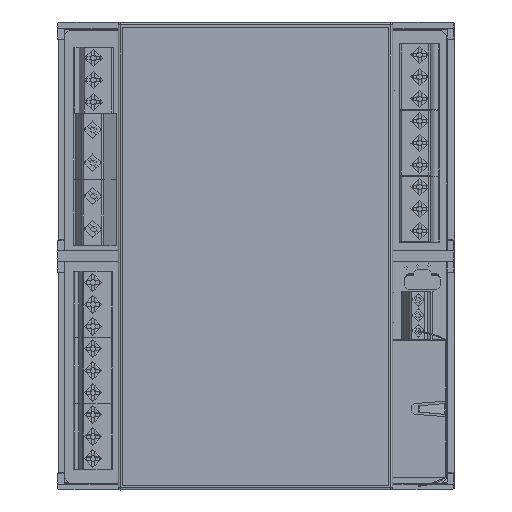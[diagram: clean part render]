
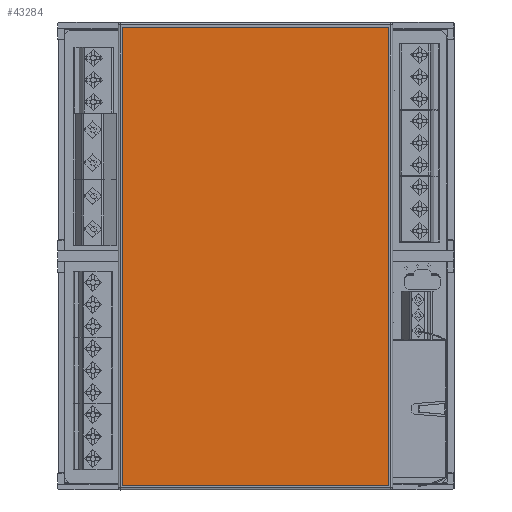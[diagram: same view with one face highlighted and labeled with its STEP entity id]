
A CAD part, top view. The second image highlights one B-rep face of the part: STEP entity #43284.
In plain terms, the highlighted planar face has unit normal (-0.007, -0.007, 1) as drawn and (0, 1, 0) by its records, which use the part's own axes.
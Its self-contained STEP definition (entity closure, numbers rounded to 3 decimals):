
#5795=FACE_OUTER_BOUND('',#8491,.T.);
#8491=EDGE_LOOP('',(#37131,#37132,#37133,#37134));
#12500=LINE('',#69943,#16833);
#12502=LINE('',#69947,#16835);
#12504=LINE('',#69951,#16837);
#12506=LINE('',#69954,#16839);
#16833=VECTOR('',#57572,60.4);
#16835=VECTOR('',#57576,104.2);
#16837=VECTOR('',#57580,60.4);
#16839=VECTOR('',#57584,104.2);
#20844=VERTEX_POINT('',#69940);
#20845=VERTEX_POINT('',#69942);
#20846=VERTEX_POINT('',#69946);
#20847=VERTEX_POINT('',#69950);
#26419=EDGE_CURVE('',#20844,#20845,#12500,.T.);
#26421=EDGE_CURVE('',#20845,#20846,#12502,.T.);
#26423=EDGE_CURVE('',#20846,#20847,#12504,.T.);
#26425=EDGE_CURVE('',#20847,#20844,#12506,.T.);
#37131=ORIENTED_EDGE('',*,*,#26419,.F.);
#37132=ORIENTED_EDGE('',*,*,#26425,.F.);
#37133=ORIENTED_EDGE('',*,*,#26423,.F.);
#37134=ORIENTED_EDGE('',*,*,#26421,.F.);
#41285=PLANE('',#47210);
#43284=ADVANCED_FACE('',(#5795),#41285,.T.);
#47210=AXIS2_PLACEMENT_3D('',#69955,#57585,#57586);
#57572=DIRECTION('',(0.,0.,-1.));
#57576=DIRECTION('',(1.,0.,0.));
#57580=DIRECTION('',(0.,0.,1.));
#57584=DIRECTION('',(-1.,0.,0.));
#57585=DIRECTION('center_axis',(0.,1.,0.));
#57586=DIRECTION('ref_axis',(0.,0.,1.));
#69940=CARTESIAN_POINT('',(-52.1,31.9,30.2));
#69942=CARTESIAN_POINT('',(-52.1,31.9,-30.2));
#69943=CARTESIAN_POINT('',(-52.1,31.9,30.2));
#69946=CARTESIAN_POINT('',(52.1,31.9,-30.2));
#69947=CARTESIAN_POINT('',(-52.1,31.9,-30.2));
#69950=CARTESIAN_POINT('',(52.1,31.9,30.2));
#69951=CARTESIAN_POINT('',(52.1,31.9,-30.2));
#69954=CARTESIAN_POINT('',(52.1,31.9,30.2));
#69955=CARTESIAN_POINT('Origin',(0.,31.9,0.));
